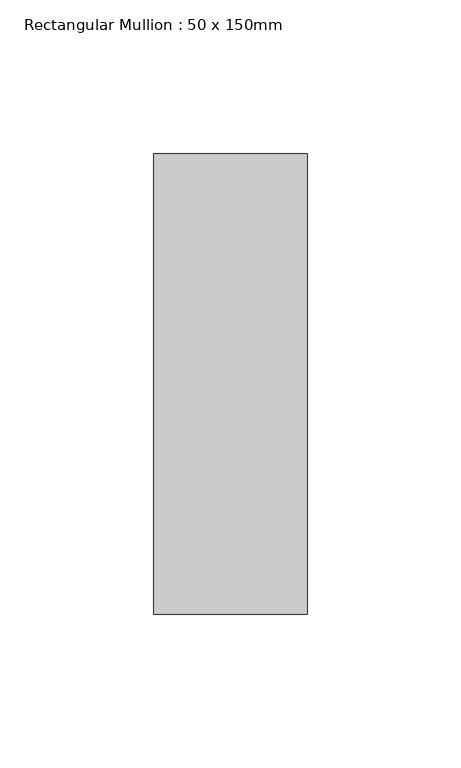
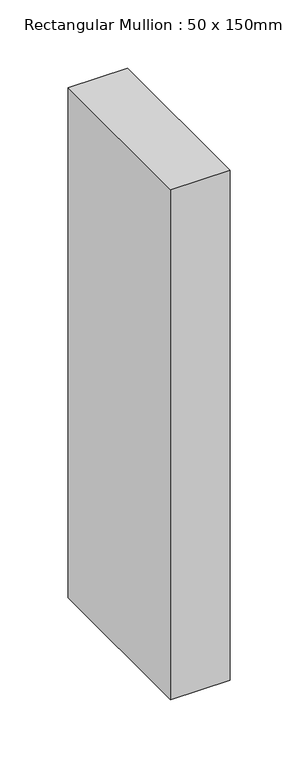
"""IFC4 building model written with IfcOpenShell, lengths in millimetres: member geometry, Rectangular Mullion : 50 x 150mm."""

from ifc_helpers import new_model, si_unit, frame, origin, place, context, project, spatial, polyline, outline, extrude, source, transform, mapped, element, save


def rectangular_mullion_50_x_150mm_11df4cda(model_context):
    return source(origin(), model_context, "Body", "SweptSolid", [
        extrude(outline(polyline([(0.0, 75.0), (0.0, -75.0), (-50.0, -75.0), (-50.0, 75.0), (0.0, 75.0)])), frame((0.0, 0.0, -455.2574105), z_axis=(0.0, 0.0, 1.0), x_axis=(1.0, 0.0, 0.0)), (0.0, 0.0, 1.0), 455.2574105),
    ])


if __name__ == "__main__":
    model = new_model("IFC4")
    model_context = context("Model", 3, world=origin())
    ifc_project = project(units=[si_unit("LENGTHUNIT", "METRE", prefix="MILLI")], contexts=[model_context])
    site = spatial("IfcSite", under=ifc_project)
    building = spatial("IfcBuilding", under=site)
    placement = place(None, origin())
    rectangular_mullion_50_x_150mm_shape = rectangular_mullion_50_x_150mm_11df4cda(model_context)
    element("IfcMember", 1, ObjectType="Rectangular Mullion : 50 x 150mm", at=placement, inside=building, context=model_context, shape_type="MappedRepresentation", body=[
        mapped(rectangular_mullion_50_x_150mm_shape, transform((0.0, 0.0, 0.0), x_axis=(1.0, 0.0, 0.0), y_axis=(0.0, 1.0, 0.0), z_axis=(0.0, 0.0, 1.0))),
    ])
    save(model, "model.ifc")
